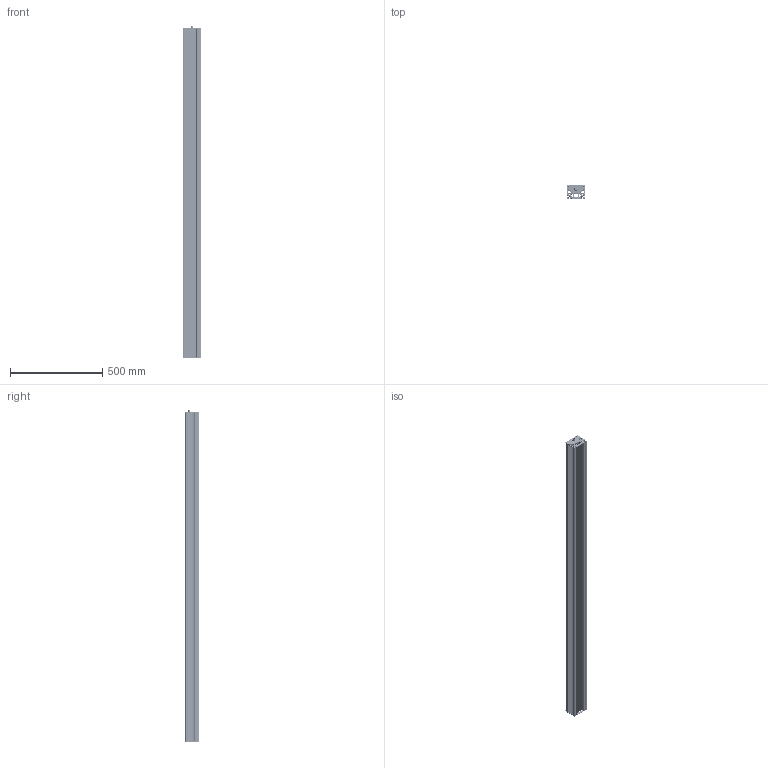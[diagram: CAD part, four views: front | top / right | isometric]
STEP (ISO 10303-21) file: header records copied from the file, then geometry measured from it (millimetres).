
FILE_DESCRIPTION (( 'STEP AP214' ), '1' );
FILE_NAME ('MLLT169-XXX.STEP', '2026-05-26T02:39:55', ( '' ), ( '' ), 'SwSTEP 2.0', 'SolidWorks 2025', '' );
FILE_SCHEMA (( 'AUTOMOTIVE_DESIGN' ));
Length unit declared in the file: inch
Products named in the file (20): Extrusion MLLT_End; 2500-00565C_ASM; 2500-00565C; Standard Lens; 2500-00565C-SBN; 10-32 x .750_92949A269; Extrusion MLLT_69; SD-MLLTxxxx_69; 2500-00565C-BT; Extrusion MLLT_End M12 B&L-code; xpg3; MLL111.5-3535; 2500-00565C-SB; MLLT169-XXX; M12-BulkHead-L-code.stp; 3535_holder_10568; 2060-401; 2610-00066-DOME; LED-Lens Holder and Lens; MLL111.5-3535_PCB-LL111.5
Assembly tree (45 placements, depth 6):
  MLLT169-XXX
    Extrusion MLLT_69
    Extrusion MLLT_End M12 B&L-code
    Extrusion MLLT_End
    10-32 x .750_92949A269  x8
    MLL111.5-3535  x6
      MLL111.5-3535_PCB-LL111.5
      LED-Lens Holder and Lens
        3535_holder_10568
        xpg3
          2500-00565C_ASM
            2500-00565C
            2500-00565C-BT
            2500-00565C-SBN
            2500-00565C-SB
          2610-00066-DOME
        Standard Lens
      2060-401
    M12-BulkHead-L-code.stp
    SD-MLLTxxxx_69
Bounding box: 95.25 x 72.5 x 1800.02 mm (x, y, z)
Volume: 3654193.3 mm3; surface area: 2743180.9 mm2
Topology: 691 solids, 691 shells, 16928 faces, 43579 edges, 28255 vertices
Faces by surface type: plane 10473, cylinder 2537, cone 2022, bspline 1733, torus 109, sphere 54
Full cylindrical faces by diameter (mm): 0.05 x72, 0.063 x144, 1 x72, 2.25 x24, 2.261 x24, 4.178 x184, 4.826 x176, 5.105 x8, 5.944 x72, 9.169 x8, 19.71 x72
Entity records: 44186 total; most frequent: CARTESIAN_POINT 11714, DIRECTION 5865, ORIENTED_EDGE 5864, EDGE_CURVE 2932, AXIS2_PLACEMENT_3D 2161, VERTEX_POINT 1970, LINE 1543, VECTOR 1543
